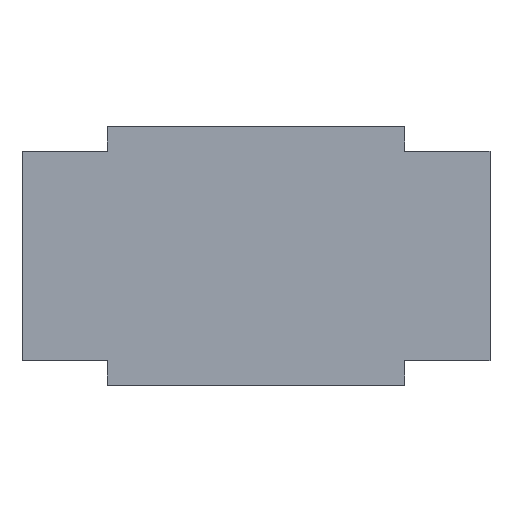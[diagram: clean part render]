
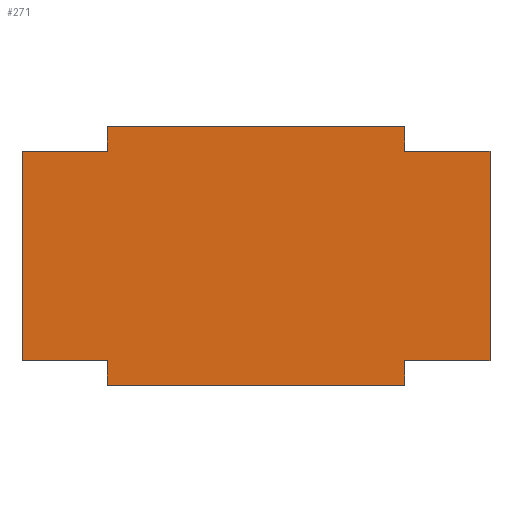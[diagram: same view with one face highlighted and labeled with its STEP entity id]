
A CAD part, top view. The second image highlights one B-rep face of the part: STEP entity #271.
In plain terms, the highlighted planar face has unit normal (0, 0, 1).
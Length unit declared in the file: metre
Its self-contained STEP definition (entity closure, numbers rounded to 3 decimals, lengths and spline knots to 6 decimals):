
#72=ORIENTED_EDGE('',*,*,#118,.F.);
#73=ORIENTED_EDGE('',*,*,#115,.F.);
#74=ORIENTED_EDGE('',*,*,#112,.F.);
#75=ORIENTED_EDGE('',*,*,#109,.F.);
#76=ORIENTED_EDGE('',*,*,#106,.F.);
#77=ORIENTED_EDGE('',*,*,#103,.F.);
#78=ORIENTED_EDGE('',*,*,#100,.F.);
#79=ORIENTED_EDGE('',*,*,#97,.F.);
#80=ORIENTED_EDGE('',*,*,#94,.F.);
#81=ORIENTED_EDGE('',*,*,#91,.F.);
#82=ORIENTED_EDGE('',*,*,#88,.F.);
#83=ORIENTED_EDGE('',*,*,#85,.F.);
#85=EDGE_CURVE('',#121,#122,#145,.T.);
#88=EDGE_CURVE('',#122,#124,#148,.T.);
#91=EDGE_CURVE('',#124,#126,#151,.T.);
#94=EDGE_CURVE('',#126,#128,#154,.T.);
#97=EDGE_CURVE('',#128,#130,#157,.T.);
#100=EDGE_CURVE('',#130,#132,#160,.T.);
#103=EDGE_CURVE('',#132,#134,#163,.T.);
#106=EDGE_CURVE('',#134,#136,#166,.T.);
#109=EDGE_CURVE('',#136,#138,#169,.T.);
#112=EDGE_CURVE('',#138,#140,#172,.T.);
#115=EDGE_CURVE('',#140,#142,#175,.T.);
#118=EDGE_CURVE('',#142,#121,#178,.T.);
#121=VERTEX_POINT('',#361);
#122=VERTEX_POINT('',#363);
#124=VERTEX_POINT('',#369);
#126=VERTEX_POINT('',#375);
#128=VERTEX_POINT('',#381);
#130=VERTEX_POINT('',#387);
#132=VERTEX_POINT('',#393);
#134=VERTEX_POINT('',#399);
#136=VERTEX_POINT('',#405);
#138=VERTEX_POINT('',#411);
#140=VERTEX_POINT('',#417);
#142=VERTEX_POINT('',#423);
#145=LINE('',#362,#181);
#148=LINE('',#368,#184);
#151=LINE('',#374,#187);
#154=LINE('',#380,#190);
#157=LINE('',#386,#193);
#160=LINE('',#392,#196);
#163=LINE('',#398,#199);
#166=LINE('',#404,#202);
#169=LINE('',#410,#205);
#172=LINE('',#416,#208);
#175=LINE('',#422,#211);
#178=LINE('',#428,#214);
#181=VECTOR('',#296,1.);
#184=VECTOR('',#301,1.);
#187=VECTOR('',#306,1.);
#190=VECTOR('',#311,1.);
#193=VECTOR('',#316,1.);
#196=VECTOR('',#321,1.);
#199=VECTOR('',#326,1.);
#202=VECTOR('',#331,1.);
#205=VECTOR('',#336,1.);
#208=VECTOR('',#341,1.);
#211=VECTOR('',#346,1.);
#214=VECTOR('',#351,1.);
#229=EDGE_LOOP('',(#72,#73,#74,#75,#76,#77,#78,#79,#80,#81,#82,#83));
#243=FACE_BOUND('',#229,.T.);
#257=PLANE('',#290);
#271=ADVANCED_FACE('',(#243),#257,.T.);
#290=AXIS2_PLACEMENT_3D('',#431,#355,#356);
#296=DIRECTION('',(1.,0.,0.));
#301=DIRECTION('',(0.,1.,0.));
#306=DIRECTION('',(1.,0.,0.));
#311=DIRECTION('',(0.,-1.,0.));
#316=DIRECTION('',(1.,0.,0.));
#321=DIRECTION('',(0.,-1.,0.));
#326=DIRECTION('',(-1.,0.,0.));
#331=DIRECTION('',(0.,-1.,0.));
#336=DIRECTION('',(-1.,0.,0.));
#341=DIRECTION('',(0.,1.,0.));
#346=DIRECTION('',(-1.,0.,0.));
#351=DIRECTION('',(0.,1.,0.));
#355=DIRECTION('',(0.,0.,1.));
#356=DIRECTION('',(1.,0.,0.));
#361=CARTESIAN_POINT('',(0.018652,0.025731,0.002895));
#362=CARTESIAN_POINT('',(0.018652,0.025731,0.002895));
#363=CARTESIAN_POINT('',(0.020052,0.025731,0.002895));
#368=CARTESIAN_POINT('',(0.020052,0.025731,0.002895));
#369=CARTESIAN_POINT('',(0.020052,0.026131,0.002895));
#374=CARTESIAN_POINT('',(0.020052,0.026131,0.002895));
#375=CARTESIAN_POINT('',(0.024952,0.026131,0.002895));
#380=CARTESIAN_POINT('',(0.024952,0.026131,0.002895));
#381=CARTESIAN_POINT('',(0.024952,0.025731,0.002895));
#386=CARTESIAN_POINT('',(0.024952,0.025731,0.002895));
#387=CARTESIAN_POINT('',(0.026352,0.025731,0.002895));
#392=CARTESIAN_POINT('',(0.026352,0.025731,0.002895));
#393=CARTESIAN_POINT('',(0.026352,0.022281,0.002895));
#398=CARTESIAN_POINT('',(0.026352,0.022281,0.002895));
#399=CARTESIAN_POINT('',(0.024952,0.022281,0.002895));
#404=CARTESIAN_POINT('',(0.024952,0.022281,0.002895));
#405=CARTESIAN_POINT('',(0.024952,0.021881,0.002895));
#410=CARTESIAN_POINT('',(0.024952,0.021881,0.002895));
#411=CARTESIAN_POINT('',(0.020052,0.021881,0.002895));
#416=CARTESIAN_POINT('',(0.020052,0.021881,0.002895));
#417=CARTESIAN_POINT('',(0.020052,0.022281,0.002895));
#422=CARTESIAN_POINT('',(0.020052,0.022281,0.002895));
#423=CARTESIAN_POINT('',(0.018652,0.022281,0.002895));
#428=CARTESIAN_POINT('',(0.018652,0.022281,0.002895));
#431=CARTESIAN_POINT('',(0.022502,0.024006,0.002895));
